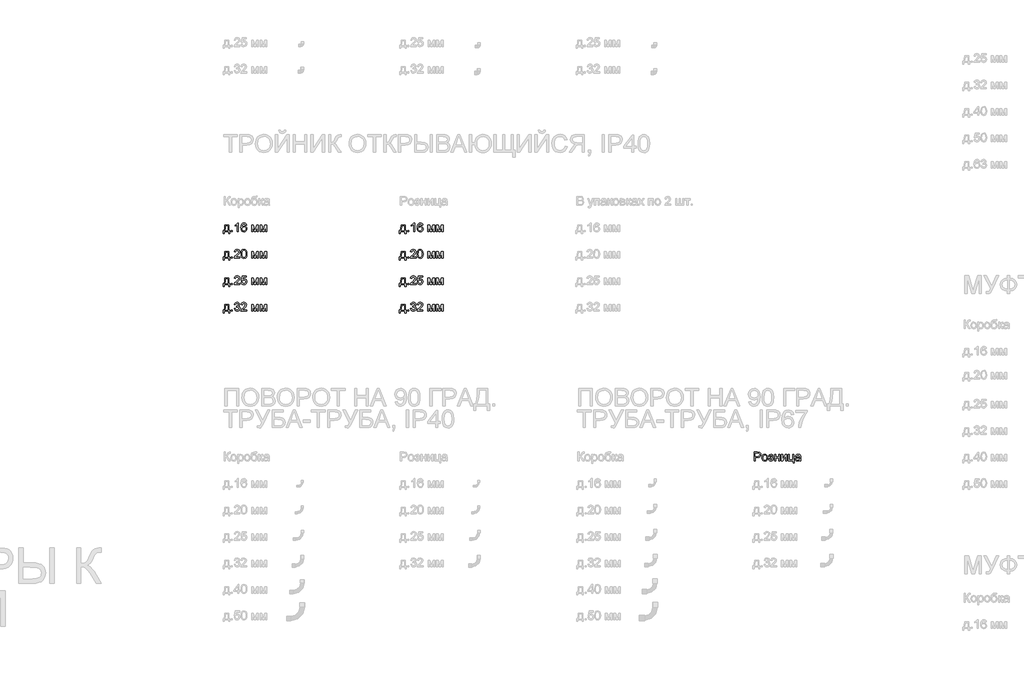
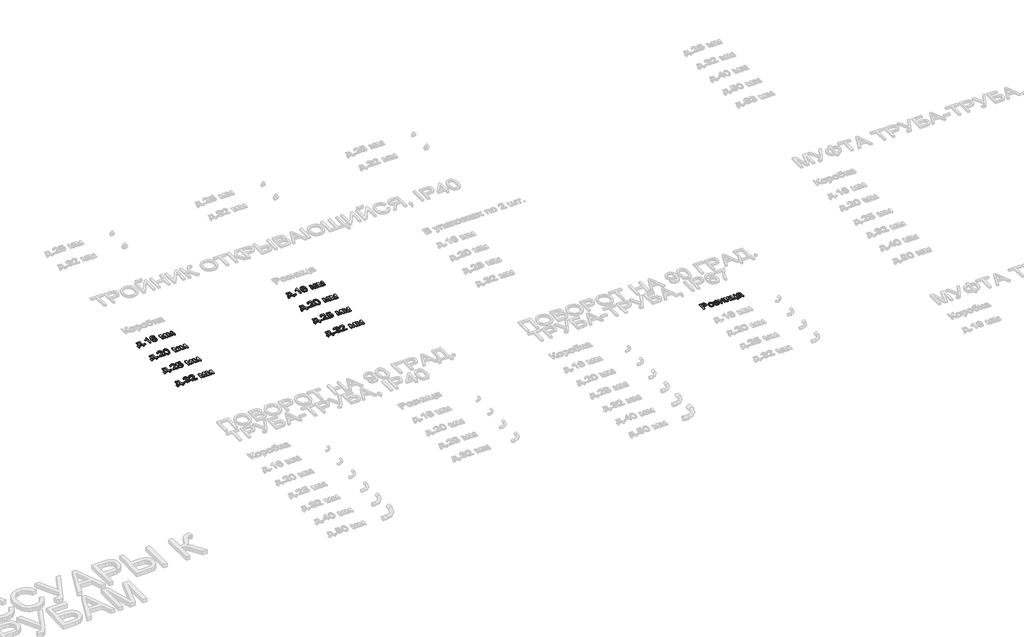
# One storey, part 67 of 98: 9 proxies.
"""IFC4 building model written with IfcOpenShell, lengths in millimetres."""

from ifc_helpers import new_model, si_unit, origin, origin_with_axes, place, context, project, spatial, polyline, outline, extrude, element, save

model = new_model("IFC4")

# Units and contexts
model_context = context("Model", 3, world=origin())
ifc_project = project(units=[si_unit("LENGTHUNIT", "METRE", prefix="MILLI")], contexts=[model_context])

# Site, building, storey
site = spatial("IfcSite", under=ifc_project)
building = spatial("IfcBuilding", under=site)
storey = spatial("IfcBuildingStorey", under=building, Name="Этаж 01", Elevation=0.0)

# Proxies
placement = place(None, origin())
element("IfcBuildingElementProxy", 1, Name="100", ObjectType="100", at=placement, inside=storey, context=model_context, shape_type="SweptSolid", body=[
    extrude(outline(polyline([(5971.4635027, -20759.5121665), (5971.4635027, -20659.0558563), (6008.6931606, -20659.0558563), (6023.702746, -20660.0123495), (6035.9041655, -20664.7089763), (6043.8136284, -20674.421061), (6046.8057353, -20688.1185339), (6044.78545, -20699.9582028), (6038.7245942, -20709.8235716), (6027.390763, -20716.4822358), (6009.5515519, -20718.7017905), (5984.0205415, -20718.7017905), (5984.0205415, -20759.5121665), (5971.4635027, -20759.5121665)]), holes=[polyline([(5984.0205415, -20706.1447517), (6010.2873159, -20706.1447517), (6028.7795176, -20701.533964), (6032.8814018, -20695.9850773), (6034.2486966, -20688.5599923), (6031.0235977, -20678.1611946), (6022.5500491, -20672.4712864), (6009.9930103, -20671.6128951), (5984.0205415, -20671.6128951), (5984.0205415, -20706.1447517)])]), origin_with_axes(), (0.0, 0.0, 1.0), 10.0),
    extrude(outline(polyline([(6059.3627741, -20722.6258651), (6062.0789695, -20704.8387706), (6070.2275557, -20692.3369141), (6080.2952596, -20686.2116789), (6092.3495263, -20684.1699338), (6105.5411615, -20686.656203), (6116.077915, -20694.1150104), (6122.9848995, -20705.957745), (6125.2872276, -20721.5957955), (6121.2160002, -20743.9384953), (6109.3579372, -20756.5813732), (6092.3495263, -20761.0817963), (6078.9984756, -20758.6047242), (6068.4739848, -20751.1735079), (6061.6405768, -20739.082453), (6059.3627741, -20722.6258651)]), holes=[polyline([(6071.9198129, -20722.6013396), (6073.3729467, -20733.9658276), (6077.7323484, -20742.0622972), (6084.2929106, -20746.9091424), (6092.3495263, -20748.5247575), (6100.3693538, -20746.8999454), (6106.9176533, -20742.025509), (6111.277055, -20733.8217405), (6112.7301889, -20722.2089321), (6111.2678579, -20711.175538), (6106.8808651, -20703.189433), (6100.3233686, -20698.3425877), (6092.3495263, -20696.7269726), (6084.2929106, -20698.3364563), (6077.7323484, -20703.1649075), (6073.3729467, -20711.242983), (6071.9198129, -20722.6013396)])]), origin_with_axes(), (0.0, 0.0, 1.0), 10.0),
    extrude(outline(polyline([(6156.6798245, -20726.5499397), (6156.6798245, -20713.9929009), (6166.5881129, -20713.5023916), (6171.5913081, -20710.8904294), (6173.9457529, -20705.4335132), (6170.7942304, -20699.0936801), (6162.6640383, -20696.7269726), (6154.2640661, -20699.0814174), (6148.8316753, -20706.1447517), (6134.7050067, -20704.5751218), (6144.1473112, -20689.2712308), (6161.3887141, -20684.1699338), (6171.8856137, -20685.7242353), (6179.8318648, -20690.3871396), (6184.8350599, -20697.2082849), (6186.5027916, -20705.2373094), (6184.1299528, -20713.0364077), (6177.0114361, -20719.0696725), (6185.3133065, -20726.8932962), (6188.0724215, -20738.1504853), (6186.3219163, -20747.3935204), (6181.0704008, -20754.7174378), (6172.6734943, -20759.4907067), (6161.4868159, -20761.0817963), (6150.5453923, -20759.6102683), (6142.1730112, -20755.1956844), (6136.3696727, -20747.8380445), (6133.1353769, -20737.5373486), (6147.2620455, -20735.9677188), (6152.9274282, -20745.238345), (6162.6885638, -20748.5247575), (6171.8610882, -20745.3732351), (6175.5153827, -20737.3166194), (6173.2467771, -20730.719269), (6168.4152602, -20727.1876018), (6159.1323712, -20726.4763633), (6156.6798245, -20726.5499397)])), origin_with_axes(), (0.0, 0.0, 1.0), 10.0),
    extrude(outline(polyline([(6203.7687199, -20685.7395637), (6216.3257587, -20685.7395637), (6216.3257587, -20713.9929009), (6249.2879855, -20713.9929009), (6249.2879855, -20685.7395637), (6261.8450242, -20685.7395637), (6261.8450242, -20759.5121665), (6249.2879855, -20759.5121665), (6249.2879855, -20726.5499397), (6216.3257587, -20726.5499397), (6216.3257587, -20759.5121665), (6203.7687199, -20759.5121665), (6203.7687199, -20685.7395637)])), origin_with_axes(), (0.0, 0.0, 1.0), 10.0),
    extrude(outline(polyline([(6280.6805824, -20685.7395637), (6293.2376212, -20685.7395637), (6293.2376212, -20742.0009835), (6324.0906578, -20685.7395637), (6340.3265165, -20685.7395637), (6340.3265165, -20759.5121665), (6327.7694778, -20759.5121665), (6327.7694778, -20703.5941032), (6297.1126448, -20759.5121665), (6280.6805824, -20759.5121665), (6280.6805824, -20685.7395637)])), origin_with_axes(), (0.0, 0.0, 1.0), 10.0),
    extrude(outline(polyline([(6359.1620747, -20685.7395637), (6371.7191135, -20685.7395637), (6371.7191135, -20746.9551277), (6407.8205999, -20746.9551277), (6407.8205999, -20685.7395637), (6420.3776387, -20685.7395637), (6420.3776387, -20746.9551277), (6428.2257879, -20746.9551277), (6428.2257879, -20779.9173545), (6415.6687491, -20779.9173545), (6415.6687491, -20759.5121665), (6359.1620747, -20759.5121665), (6359.1620747, -20685.7395637)])), origin_with_axes(), (0.0, 0.0, 1.0), 10.0),
    extrude(outline(polyline([(6486.3020922, -20750.0943874), (6474.1251982, -20758.6047242), (6460.6729799, -20761.0817963), (6450.179146, -20759.5918742), (6442.4382957, -20755.122108), (6437.6650268, -20748.3346852), (6436.0739371, -20739.8917934), (6438.4774329, -20729.9589795), (6444.7927404, -20722.7484924), (6453.5851201, -20718.6282141), (6464.4499017, -20716.7397532), (6486.2285158, -20712.4232711), (6486.3020922, -20709.6273679), (6482.8440015, -20700.3567416), (6468.9625875, -20696.7269726), (6456.258396, -20699.1427311), (6450.2006058, -20707.7143815), (6437.643567, -20706.1447517), (6443.0759578, -20693.8820185), (6454.0143158, -20686.6960569), (6470.5812683, -20684.1699338), (6485.7993202, -20686.4017513), (6494.3954961, -20692.0058203), (6498.2459943, -20700.5284199), (6498.859131, -20711.5158288), (6498.859131, -20727.1385509), (6499.4967931, -20748.9539532), (6501.9983907, -20759.5121665), (6489.4413519, -20759.5121665), (6486.3020922, -20750.0943874)]), holes=[polyline([(6486.3020922, -20724.9803098), (6466.044057, -20728.8308081), (6455.2405891, -20730.8664218), (6450.3477586, -20734.1773597), (6448.6309759, -20739.0088766), (6452.3711095, -20745.8024308), (6463.3462557, -20748.5247575), (6476.0504473, -20745.5203879), (6484.2419531, -20738.2485871), (6486.2285158, -20728.5365025), (6486.3020922, -20724.9803098)])]), origin_with_axes(), (0.0, 0.0, 1.0), 10.0),
])
element("IfcBuildingElementProxy", 2, Name="100", ObjectType="100", at=placement, inside=storey, context=model_context, shape_type="SweptSolid", body=[
    extrude(outline(polyline([(-26.9858135, -18085.7395637), (20.1030819, -18085.7395637), (20.1030819, -18146.9551277), (29.520861, -18146.9551277), (29.520861, -18179.9173545), (16.9638222, -18179.9173545), (16.9638222, -18159.5121665), (-34.8339627, -18159.5121665), (-34.8339627, -18179.9173545), (-47.3910015, -18179.9173545), (-47.3910015, -18146.9551277), (-39.5428522, -18146.9551277), (-29.8430303, -18123.0060098), (-26.9858135, -18085.7395637)]), holes=[polyline([(-15.9984045, -18098.2966025), (-18.9414605, -18126.905559), (-25.4161836, -18146.9551277), (7.5460431, -18146.9551277), (7.5460431, -18098.2966025), (-15.9984045, -18098.2966025)])]), origin_with_axes(), (0.0, 0.0, 1.0), 10.0),
    extrude(outline(polyline([(46.7867893, -18159.5121665), (46.7867893, -18146.9551277), (59.3438281, -18146.9551277), (59.3438281, -18159.5121665), (46.7867893, -18159.5121665)])), origin_with_axes(), (0.0, 0.0, 1.0), 10.0),
    extrude(outline(polyline([(126.8379114, -18159.5121665), (114.2808727, -18159.5121665), (114.2808727, -18081.2268779), (102.3860215, -18089.7004265), (89.1667951, -18096.0402596), (89.1667951, -18084.1699338), (107.5731576, -18072.4222355), (118.7445076, -18059.0558563), (126.8379114, -18059.0558563), (126.8379114, -18159.5121665)])), origin_with_axes(), (0.0, 0.0, 1.0), 10.0),
    extrude(outline(polyline([(221.0157022, -18085.7395637), (208.4586634, -18087.3091935), (203.700723, -18076.8368194), (191.1191587, -18071.6128951), (179.7883933, -18074.6540529), (171.2167428, -18086.0706575), (167.6482874, -18108.4501455), (178.7215355, -18098.4314925), (192.4435339, -18095.1573428), (204.0440795, -18097.3952916), (213.7806896, -18104.109138), (220.3841715, -18114.3669143), (222.5853321, -18127.2366527), (218.4405282, -18144.5638947), (207.0361864, -18156.8266279), (190.5795985, -18161.0817963), (176.3333682, -18158.2613677), (164.9872743, -18149.8000818), (157.5652551, -18134.8640728), (155.0912487, -18112.6194748), (157.8381009, -18087.6096305), (166.0786576, -18070.5092491), (177.3297153, -18061.9192045), (191.9039737, -18059.0558563), (202.9220394, -18060.8278213), (211.7450759, -18066.1437161), (217.9254935, -18074.5866079), (221.0157022, -18085.7395637)]), holes=[polyline([(167.6482874, -18127.040449), (170.5545552, -18137.9174933), (178.2800771, -18145.8146935), (189.5985798, -18148.5247575), (197.8851218, -18147.1206746), (204.3996988, -18142.9084257), (208.6211447, -18136.2865498), (210.0282933, -18127.6535857), (208.6395388, -18119.3670437), (204.4732752, -18113.0486705), (197.8483336, -18109.0479538), (189.083545, -18107.7143815), (173.8900186, -18113.0486705), (169.2087202, -18119.2137596), (167.6482874, -18127.040449)])]), origin_with_axes(), (0.0, 0.0, 1.0), 10.0),
    extrude(outline(polyline([(275.9527468, -18085.7395637), (297.5596827, -18085.7395637), (314.2124743, -18144.7968867), (332.1651157, -18085.7395637), (352.8646093, -18085.7395637), (352.8646093, -18159.5121665), (340.3075705, -18159.5121665), (340.3075705, -18100.111487), (322.2568273, -18159.5121665), (305.7757139, -18159.5121665), (288.5097856, -18097.2665329), (288.5097856, -18159.5121665), (275.9527468, -18159.5121665), (275.9527468, -18085.7395637)])), origin_with_axes(), (0.0, 0.0, 1.0), 10.0),
    extrude(outline(polyline([(371.7001674, -18085.7395637), (393.3071033, -18085.7395637), (409.9598949, -18144.7968867), (427.9125363, -18085.7395637), (448.6120299, -18085.7395637), (448.6120299, -18159.5121665), (436.0549911, -18159.5121665), (436.0549911, -18100.111487), (418.0042479, -18159.5121665), (401.5231345, -18159.5121665), (384.2572062, -18097.2665329), (384.2572062, -18159.5121665), (371.7001674, -18159.5121665), (371.7001674, -18085.7395637)])), origin_with_axes(), (0.0, 0.0, 1.0), 10.0),
])
element("IfcBuildingElementProxy", 3, Name="100", ObjectType="100", at=placement, inside=storey, context=model_context, shape_type="SweptSolid", body=[
    extrude(outline(polyline([(-26.9858135, -18385.7395637), (20.1030819, -18385.7395637), (20.1030819, -18446.9551277), (29.520861, -18446.9551277), (29.520861, -18479.9173545), (16.9638222, -18479.9173545), (16.9638222, -18459.5121665), (-34.8339627, -18459.5121665), (-34.8339627, -18479.9173545), (-47.3910015, -18479.9173545), (-47.3910015, -18446.9551277), (-39.5428522, -18446.9551277), (-29.8430303, -18423.0060098), (-26.9858135, -18385.7395637)]), holes=[polyline([(-15.9984045, -18398.2966025), (-18.9414605, -18426.905559), (-25.4161836, -18446.9551277), (7.5460431, -18446.9551277), (7.5460431, -18398.2966025), (-15.9984045, -18398.2966025)])]), origin_with_axes(), (0.0, 0.0, 1.0), 10.0),
    extrude(outline(polyline([(46.7867893, -18459.5121665), (46.7867893, -18446.9551277), (59.3438281, -18446.9551277), (59.3438281, -18459.5121665), (46.7867893, -18459.5121665)])), origin_with_axes(), (0.0, 0.0, 1.0), 10.0),
    extrude(outline(polyline([(144.1038398, -18446.9551277), (144.1038398, -18459.5121665), (78.1793862, -18459.5121665), (79.5282869, -18450.8546768), (87.1557069, -18437.5250859), (102.8765308, -18422.9692216), (124.5570431, -18402.0489988), (129.9771711, -18387.8242283), (124.8636114, -18376.3095219), (111.509495, -18371.6128951), (97.5912928, -18376.1991573), (92.3060548, -18388.8788234), (79.7490161, -18387.3091935), (82.7932396, -18375.1629563), (89.3752616, -18366.2908689), (99.1517256, -18360.8646095), (111.7792751, -18359.0558563), (124.4987951, -18361.0669445), (134.256865, -18367.1002093), (140.4648737, -18376.1133182), (142.5342099, -18387.0639389), (140.3023925, -18398.9710528), (132.8834389, -18411.2828369), (114.8940093, -18428.4874515), (100.4485097, -18440.5662437), (94.7831269, -18446.9551277), (144.1038398, -18446.9551277)])), origin_with_axes(), (0.0, 0.0, 1.0), 10.0),
    extrude(outline(polyline([(156.6608785, -18410.0933518), (160.3519612, -18381.1900897), (171.3148447, -18364.5250353), (189.6231053, -18359.0558563), (204.2893342, -18362.2932179), (214.4183518, -18371.6251578), (220.3044637, -18386.4875904), (222.5853321, -18410.0933518), (218.9310376, -18438.8739865), (208.0049423, -18455.5758291), (199.7735827, -18459.7053045), (189.6231053, -18461.0817963), (176.5755572, -18458.6905633), (166.6672688, -18451.5168644), (159.1624761, -18434.5268476), (156.6608785, -18410.0933518)]), holes=[polyline([(169.2179173, -18410.0688263), (170.6894453, -18429.8210238), (175.1040292, -18441.2529568), (181.6768542, -18446.7068073), (189.6231053, -18448.5247575), (197.5693564, -18446.700676), (204.1421814, -18441.2284313), (208.5567653, -18429.7903669), (210.0282933, -18410.0688263), (208.6058162, -18390.7611529), (204.3383851, -18379.2403151), (197.7778228, -18373.5197501), (189.4759525, -18371.6128951), (181.6155405, -18373.2928895), (175.3002329, -18378.3328729), (170.7384962, -18390.5710806), (169.2179173, -18410.0688263)])]), origin_with_axes(), (0.0, 0.0, 1.0), 10.0),
    extrude(outline(polyline([(275.9527468, -18385.7395637), (297.5596827, -18385.7395637), (314.2124743, -18444.7968867), (332.1651157, -18385.7395637), (352.8646093, -18385.7395637), (352.8646093, -18459.5121665), (340.3075705, -18459.5121665), (340.3075705, -18400.111487), (322.2568273, -18459.5121665), (305.7757139, -18459.5121665), (288.5097856, -18397.2665329), (288.5097856, -18459.5121665), (275.9527468, -18459.5121665), (275.9527468, -18385.7395637)])), origin_with_axes(), (0.0, 0.0, 1.0), 10.0),
    extrude(outline(polyline([(371.7001674, -18385.7395637), (393.3071033, -18385.7395637), (409.9598949, -18444.7968867), (427.9125363, -18385.7395637), (448.6120299, -18385.7395637), (448.6120299, -18459.5121665), (436.0549911, -18459.5121665), (436.0549911, -18400.111487), (418.0042479, -18459.5121665), (401.5231345, -18459.5121665), (384.2572062, -18397.2665329), (384.2572062, -18459.5121665), (371.7001674, -18459.5121665), (371.7001674, -18385.7395637)])), origin_with_axes(), (0.0, 0.0, 1.0), 10.0),
])
element("IfcBuildingElementProxy", 4, Name="100", ObjectType="100", at=placement, inside=storey, context=model_context, shape_type="SweptSolid", body=[
    extrude(outline(polyline([(-26.9858135, -18685.7395637), (20.1030819, -18685.7395637), (20.1030819, -18746.9551277), (29.520861, -18746.9551277), (29.520861, -18779.9173545), (16.9638222, -18779.9173545), (16.9638222, -18759.5121665), (-34.8339627, -18759.5121665), (-34.8339627, -18779.9173545), (-47.3910015, -18779.9173545), (-47.3910015, -18746.9551277), (-39.5428522, -18746.9551277), (-29.8430303, -18723.0060098), (-26.9858135, -18685.7395637)]), holes=[polyline([(-15.9984045, -18698.2966025), (-18.9414605, -18726.905559), (-25.4161836, -18746.9551277), (7.5460431, -18746.9551277), (7.5460431, -18698.2966025), (-15.9984045, -18698.2966025)])]), origin_with_axes(), (0.0, 0.0, 1.0), 10.0),
    extrude(outline(polyline([(46.7867893, -18759.5121665), (46.7867893, -18746.9551277), (59.3438281, -18746.9551277), (59.3438281, -18759.5121665), (46.7867893, -18759.5121665)])), origin_with_axes(), (0.0, 0.0, 1.0), 10.0),
    extrude(outline(polyline([(144.1038398, -18746.9551277), (144.1038398, -18759.5121665), (78.1793862, -18759.5121665), (79.5282869, -18750.8546768), (87.1557069, -18737.5250859), (102.8765308, -18722.9692216), (124.5570431, -18702.0489988), (129.9771711, -18687.8242283), (124.8636114, -18676.3095219), (111.509495, -18671.6128951), (97.5912928, -18676.1991573), (92.3060548, -18688.8788234), (79.7490161, -18687.3091935), (82.7932396, -18675.1629563), (89.3752616, -18666.2908689), (99.1517256, -18660.8646095), (111.7792751, -18659.0558563), (124.4987951, -18661.0669445), (134.256865, -18667.1002093), (140.4648737, -18676.1133182), (142.5342099, -18687.0639389), (140.3023925, -18698.9710528), (132.8834389, -18711.2828369), (114.8940093, -18728.4874515), (100.4485097, -18740.5662437), (94.7831269, -18746.9551277), (144.1038398, -18746.9551277)])), origin_with_axes(), (0.0, 0.0, 1.0), 10.0),
    extrude(outline(polyline([(156.6608785, -18732.8284591), (169.2179173, -18731.2588292), (175.5454876, -18744.1960127), (188.6666121, -18748.5247575), (197.6674583, -18747.019507), (204.4119615, -18742.5037555), (208.6242103, -18735.4986692), (210.0282933, -18726.5254142), (204.7675808, -18711.6139307), (198.1610333, -18707.5120464), (188.8628158, -18706.1447517), (177.8386187, -18708.3275182), (170.7875471, -18713.9929009), (158.2305084, -18712.4232711), (169.2179173, -18660.6254862), (217.8764425, -18660.6254862), (217.8764425, -18673.1825249), (179.3714604, -18673.1825249), (174.0003832, -18700.847251), (182.9705725, -18695.4025974), (192.3699575, -18693.5877129), (204.1023275, -18695.8379245), (213.8420033, -18702.5885591), (220.3994999, -18712.8769922), (222.5853321, -18725.7405993), (220.6171634, -18738.2976381), (214.7126574, -18749.0397923), (203.4064174, -18758.0712953), (188.6175612, -18761.0817963), (176.2843173, -18759.1473501), (166.4588023, -18753.3440117), (159.7234961, -18744.3462312), (156.6608785, -18732.8284591)])), origin_with_axes(), (0.0, 0.0, 1.0), 10.0),
    extrude(outline(polyline([(275.9527468, -18685.7395637), (297.5596827, -18685.7395637), (314.2124743, -18744.7968867), (332.1651157, -18685.7395637), (352.8646093, -18685.7395637), (352.8646093, -18759.5121665), (340.3075705, -18759.5121665), (340.3075705, -18700.111487), (322.2568273, -18759.5121665), (305.7757139, -18759.5121665), (288.5097856, -18697.2665329), (288.5097856, -18759.5121665), (275.9527468, -18759.5121665), (275.9527468, -18685.7395637)])), origin_with_axes(), (0.0, 0.0, 1.0), 10.0),
    extrude(outline(polyline([(371.7001674, -18685.7395637), (393.3071033, -18685.7395637), (409.9598949, -18744.7968867), (427.9125363, -18685.7395637), (448.6120299, -18685.7395637), (448.6120299, -18759.5121665), (436.0549911, -18759.5121665), (436.0549911, -18700.111487), (418.0042479, -18759.5121665), (401.5231345, -18759.5121665), (384.2572062, -18697.2665329), (384.2572062, -18759.5121665), (371.7001674, -18759.5121665), (371.7001674, -18685.7395637)])), origin_with_axes(), (0.0, 0.0, 1.0), 10.0),
])
element("IfcBuildingElementProxy", 5, Name="100", ObjectType="100", at=placement, inside=storey, context=model_context, shape_type="SweptSolid", body=[
    extrude(outline(polyline([(-26.9858135, -18985.7395637), (20.1030819, -18985.7395637), (20.1030819, -19046.9551277), (29.520861, -19046.9551277), (29.520861, -19079.9173545), (16.9638222, -19079.9173545), (16.9638222, -19059.5121665), (-34.8339627, -19059.5121665), (-34.8339627, -19079.9173545), (-47.3910015, -19079.9173545), (-47.3910015, -19046.9551277), (-39.5428522, -19046.9551277), (-29.8430303, -19023.0060098), (-26.9858135, -18985.7395637)]), holes=[polyline([(-15.9984045, -18998.2966025), (-18.9414605, -19026.905559), (-25.4161836, -19046.9551277), (7.5460431, -19046.9551277), (7.5460431, -18998.2966025), (-15.9984045, -18998.2966025)])]), origin_with_axes(), (0.0, 0.0, 1.0), 10.0),
    extrude(outline(polyline([(46.7867893, -19059.5121665), (46.7867893, -19046.9551277), (59.3438281, -19046.9551277), (59.3438281, -19059.5121665), (46.7867893, -19059.5121665)])), origin_with_axes(), (0.0, 0.0, 1.0), 10.0),
    extrude(outline(polyline([(79.7490161, -19032.8284591), (92.3060548, -19031.2588292), (99.2344991, -19044.4780556), (112.196208, -19048.5247575), (120.8046467, -19047.1329373), (127.4510481, -19042.9574767), (133.1164308, -19029.1741646), (127.500099, -19016.1879302), (113.2262776, -19011.049845), (104.4216352, -19012.4232711), (105.8195868, -18999.8662323), (107.830675, -19000.0133851), (122.079971, -18996.4081416), (126.8256487, -18991.8341421), (128.4075413, -18985.3226308), (123.8212791, -18975.5001815), (112.0000043, -18971.6128951), (100.0315767, -18975.5369697), (93.8756847, -18987.3091935), (81.3186459, -18985.7395637), (85.01586, -18974.4639805), (91.5948163, -18966.0456142), (100.5956625, -18960.8032958), (111.5585459, -18959.0558563), (126.7030214, -18962.5016843), (137.2980228, -18971.9194634), (140.9645801, -18984.5868668), (137.4819638, -18996.1628869), (127.181268, -19004.47702), (140.8664782, -19013.0609332), (145.6734696, -19029.3948938), (143.2699739, -19041.6331015), (136.0594868, -19051.860221), (125.1763111, -19058.7764025), (111.7547496, -19061.0817963), (99.6146438, -19059.1136276), (89.7308809, -19053.2091216), (82.8576189, -19044.1776186), (79.7490161, -19032.8284591)])), origin_with_axes(), (0.0, 0.0, 1.0), 10.0),
    extrude(outline(polyline([(221.0157022, -19046.9551277), (221.0157022, -19059.5121665), (155.0912487, -19059.5121665), (156.4401493, -19050.8546768), (164.0675694, -19037.5250859), (179.7883933, -19022.9692216), (201.4689055, -19002.0489988), (206.8890336, -18987.8242283), (201.7754739, -18976.3095219), (188.4213574, -18971.6128951), (174.5031553, -18976.1991573), (169.2179173, -18988.8788234), (156.6608785, -18987.3091935), (159.705102, -18975.1629563), (166.2871241, -18966.2908689), (176.0635881, -18960.8646095), (188.6911376, -18959.0558563), (201.4106576, -18961.0669445), (211.1687275, -18967.1002093), (217.3767361, -18976.1133182), (219.4460724, -18987.0639389), (217.2142549, -18998.9710528), (209.7953014, -19011.2828369), (191.8058718, -19028.4874515), (177.3603721, -19040.5662437), (171.6949894, -19046.9551277), (221.0157022, -19046.9551277)])), origin_with_axes(), (0.0, 0.0, 1.0), 10.0),
    extrude(outline(polyline([(275.9527468, -18985.7395637), (297.5596827, -18985.7395637), (314.2124743, -19044.7968867), (332.1651157, -18985.7395637), (352.8646093, -18985.7395637), (352.8646093, -19059.5121665), (340.3075705, -19059.5121665), (340.3075705, -19000.111487), (322.2568273, -19059.5121665), (305.7757139, -19059.5121665), (288.5097856, -18997.2665329), (288.5097856, -19059.5121665), (275.9527468, -19059.5121665), (275.9527468, -18985.7395637)])), origin_with_axes(), (0.0, 0.0, 1.0), 10.0),
    extrude(outline(polyline([(371.7001674, -18985.7395637), (393.3071033, -18985.7395637), (409.9598949, -19044.7968867), (427.9125363, -18985.7395637), (448.6120299, -18985.7395637), (448.6120299, -19059.5121665), (436.0549911, -19059.5121665), (436.0549911, -19000.111487), (418.0042479, -19059.5121665), (401.5231345, -19059.5121665), (384.2572062, -18997.2665329), (384.2572062, -19059.5121665), (371.7001674, -19059.5121665), (371.7001674, -18985.7395637)])), origin_with_axes(), (0.0, 0.0, 1.0), 10.0),
])
element("IfcBuildingElementProxy", 6, Name="100", ObjectType="100", at=placement, inside=storey, context=model_context, shape_type="SweptSolid", body=[
    extrude(outline(polyline([(1970.1856084, -18085.7395637), (2017.2745038, -18085.7395637), (2017.2745038, -18146.9551277), (2026.6922829, -18146.9551277), (2026.6922829, -18179.9173545), (2014.1352441, -18179.9173545), (2014.1352441, -18159.5121665), (1962.3374592, -18159.5121665), (1962.3374592, -18179.9173545), (1949.7804204, -18179.9173545), (1949.7804204, -18146.9551277), (1957.6285697, -18146.9551277), (1967.3283916, -18123.0060098), (1970.1856084, -18085.7395637)]), holes=[polyline([(1981.1730173, -18098.2966025), (1978.2299614, -18126.905559), (1971.7552383, -18146.9551277), (2004.717465, -18146.9551277), (2004.717465, -18098.2966025), (1981.1730173, -18098.2966025)])]), origin_with_axes(), (0.0, 0.0, 1.0), 10.0),
    extrude(outline(polyline([(2043.9582112, -18159.5121665), (2043.9582112, -18146.9551277), (2056.51525, -18146.9551277), (2056.51525, -18159.5121665), (2043.9582112, -18159.5121665)])), origin_with_axes(), (0.0, 0.0, 1.0), 10.0),
    extrude(outline(polyline([(2124.0093333, -18159.5121665), (2111.4522946, -18159.5121665), (2111.4522946, -18081.2268779), (2099.5574434, -18089.7004265), (2086.338217, -18096.0402596), (2086.338217, -18084.1699338), (2104.7445795, -18072.4222355), (2115.9159294, -18059.0558563), (2124.0093333, -18059.0558563), (2124.0093333, -18159.5121665)])), origin_with_axes(), (0.0, 0.0, 1.0), 10.0),
    extrude(outline(polyline([(2218.1871241, -18085.7395637), (2205.6300853, -18087.3091935), (2200.8721449, -18076.8368194), (2188.2905806, -18071.6128951), (2176.9598152, -18074.6540529), (2168.3881647, -18086.0706575), (2164.8197093, -18108.4501455), (2175.8929574, -18098.4314925), (2189.6149558, -18095.1573428), (2201.2155014, -18097.3952916), (2210.9521115, -18104.109138), (2217.5555933, -18114.3669143), (2219.7567539, -18127.2366527), (2215.6119501, -18144.5638947), (2204.2076083, -18156.8266279), (2187.7510204, -18161.0817963), (2173.5047901, -18158.2613677), (2162.1586962, -18149.8000818), (2154.736677, -18134.8640728), (2152.2626706, -18112.6194748), (2155.0095228, -18087.6096305), (2163.2500795, -18070.5092491), (2174.5011372, -18061.9192045), (2189.0753956, -18059.0558563), (2200.0934613, -18060.8278213), (2208.9164978, -18066.1437161), (2215.0969153, -18074.5866079), (2218.1871241, -18085.7395637)]), holes=[polyline([(2164.8197093, -18127.040449), (2167.7259771, -18137.9174933), (2175.451499, -18145.8146935), (2186.7700017, -18148.5247575), (2195.0565437, -18147.1206746), (2201.5711207, -18142.9084257), (2205.7925665, -18136.2865498), (2207.1997152, -18127.6535857), (2205.8109606, -18119.3670437), (2201.6446971, -18113.0486705), (2195.0197555, -18109.0479538), (2186.2549669, -18107.7143815), (2171.0614405, -18113.0486705), (2166.3801421, -18119.2137596), (2164.8197093, -18127.040449)])]), origin_with_axes(), (0.0, 0.0, 1.0), 10.0),
    extrude(outline(polyline([(2273.1241687, -18085.7395637), (2294.7311046, -18085.7395637), (2311.3838962, -18144.7968867), (2329.3365376, -18085.7395637), (2350.0360312, -18085.7395637), (2350.0360312, -18159.5121665), (2337.4789924, -18159.5121665), (2337.4789924, -18100.111487), (2319.4282492, -18159.5121665), (2302.9471358, -18159.5121665), (2285.6812075, -18097.2665329), (2285.6812075, -18159.5121665), (2273.1241687, -18159.5121665), (2273.1241687, -18085.7395637)])), origin_with_axes(), (0.0, 0.0, 1.0), 10.0),
    extrude(outline(polyline([(2368.8715893, -18085.7395637), (2390.4785252, -18085.7395637), (2407.1313168, -18144.7968867), (2425.0839582, -18085.7395637), (2445.7834518, -18085.7395637), (2445.7834518, -18159.5121665), (2433.226413, -18159.5121665), (2433.226413, -18100.111487), (2415.1756698, -18159.5121665), (2398.6945564, -18159.5121665), (2381.4286281, -18097.2665329), (2381.4286281, -18159.5121665), (2368.8715893, -18159.5121665), (2368.8715893, -18085.7395637)])), origin_with_axes(), (0.0, 0.0, 1.0), 10.0),
])
element("IfcBuildingElementProxy", 7, Name="100", ObjectType="100", at=placement, inside=storey, context=model_context, shape_type="SweptSolid", body=[
    extrude(outline(polyline([(1970.1856084, -18385.7395637), (2017.2745038, -18385.7395637), (2017.2745038, -18446.9551277), (2026.6922829, -18446.9551277), (2026.6922829, -18479.9173545), (2014.1352441, -18479.9173545), (2014.1352441, -18459.5121665), (1962.3374592, -18459.5121665), (1962.3374592, -18479.9173545), (1949.7804204, -18479.9173545), (1949.7804204, -18446.9551277), (1957.6285697, -18446.9551277), (1967.3283916, -18423.0060098), (1970.1856084, -18385.7395637)]), holes=[polyline([(1981.1730173, -18398.2966025), (1978.2299614, -18426.905559), (1971.7552383, -18446.9551277), (2004.717465, -18446.9551277), (2004.717465, -18398.2966025), (1981.1730173, -18398.2966025)])]), origin_with_axes(), (0.0, 0.0, 1.0), 10.0),
    extrude(outline(polyline([(2043.9582112, -18459.5121665), (2043.9582112, -18446.9551277), (2056.51525, -18446.9551277), (2056.51525, -18459.5121665), (2043.9582112, -18459.5121665)])), origin_with_axes(), (0.0, 0.0, 1.0), 10.0),
    extrude(outline(polyline([(2141.2752616, -18446.9551277), (2141.2752616, -18459.5121665), (2075.3508081, -18459.5121665), (2076.6997088, -18450.8546768), (2084.3271288, -18437.5250859), (2100.0479527, -18422.9692216), (2121.728465, -18402.0489988), (2127.148593, -18387.8242283), (2122.0350333, -18376.3095219), (2108.6809169, -18371.6128951), (2094.7627147, -18376.1991573), (2089.4774767, -18388.8788234), (2076.920438, -18387.3091935), (2079.9646615, -18375.1629563), (2086.5466835, -18366.2908689), (2096.3231475, -18360.8646095), (2108.950697, -18359.0558563), (2121.670217, -18361.0669445), (2131.4282869, -18367.1002093), (2137.6362956, -18376.1133182), (2139.7056318, -18387.0639389), (2137.4738144, -18398.9710528), (2130.0548608, -18411.2828369), (2112.0654312, -18428.4874515), (2097.6199315, -18440.5662437), (2091.9545488, -18446.9551277), (2141.2752616, -18446.9551277)])), origin_with_axes(), (0.0, 0.0, 1.0), 10.0),
    extrude(outline(polyline([(2153.8323004, -18410.0933518), (2157.5233831, -18381.1900897), (2168.4862666, -18364.5250353), (2186.7945272, -18359.0558563), (2201.4607561, -18362.2932179), (2211.5897737, -18371.6251578), (2217.4758856, -18386.4875904), (2219.7567539, -18410.0933518), (2216.1024595, -18438.8739865), (2205.1763642, -18455.5758291), (2196.9450046, -18459.7053045), (2186.7945272, -18461.0817963), (2173.7469791, -18458.6905633), (2163.8386907, -18451.5168644), (2156.333898, -18434.5268476), (2153.8323004, -18410.0933518)]), holes=[polyline([(2166.3893392, -18410.0688263), (2167.8608672, -18429.8210238), (2172.2754511, -18441.2529568), (2178.8482761, -18446.7068073), (2186.7945272, -18448.5247575), (2194.7407783, -18446.700676), (2201.3136033, -18441.2284313), (2205.7281872, -18429.7903669), (2207.1997152, -18410.0688263), (2205.7772381, -18390.7611529), (2201.509807, -18379.2403151), (2194.9492447, -18373.5197501), (2186.6473744, -18371.6128951), (2178.7869624, -18373.2928895), (2172.4716548, -18378.3328729), (2167.9099181, -18390.5710806), (2166.3893392, -18410.0688263)])]), origin_with_axes(), (0.0, 0.0, 1.0), 10.0),
    extrude(outline(polyline([(2273.1241687, -18385.7395637), (2294.7311046, -18385.7395637), (2311.3838962, -18444.7968867), (2329.3365376, -18385.7395637), (2350.0360312, -18385.7395637), (2350.0360312, -18459.5121665), (2337.4789924, -18459.5121665), (2337.4789924, -18400.111487), (2319.4282492, -18459.5121665), (2302.9471358, -18459.5121665), (2285.6812075, -18397.2665329), (2285.6812075, -18459.5121665), (2273.1241687, -18459.5121665), (2273.1241687, -18385.7395637)])), origin_with_axes(), (0.0, 0.0, 1.0), 10.0),
    extrude(outline(polyline([(2368.8715893, -18385.7395637), (2390.4785252, -18385.7395637), (2407.1313168, -18444.7968867), (2425.0839582, -18385.7395637), (2445.7834518, -18385.7395637), (2445.7834518, -18459.5121665), (2433.226413, -18459.5121665), (2433.226413, -18400.111487), (2415.1756698, -18459.5121665), (2398.6945564, -18459.5121665), (2381.4286281, -18397.2665329), (2381.4286281, -18459.5121665), (2368.8715893, -18459.5121665), (2368.8715893, -18385.7395637)])), origin_with_axes(), (0.0, 0.0, 1.0), 10.0),
])
element("IfcBuildingElementProxy", 8, Name="100", ObjectType="100", at=placement, inside=storey, context=model_context, shape_type="SweptSolid", body=[
    extrude(outline(polyline([(1970.1856084, -18685.7395637), (2017.2745038, -18685.7395637), (2017.2745038, -18746.9551277), (2026.6922829, -18746.9551277), (2026.6922829, -18779.9173545), (2014.1352441, -18779.9173545), (2014.1352441, -18759.5121665), (1962.3374592, -18759.5121665), (1962.3374592, -18779.9173545), (1949.7804204, -18779.9173545), (1949.7804204, -18746.9551277), (1957.6285697, -18746.9551277), (1967.3283916, -18723.0060098), (1970.1856084, -18685.7395637)]), holes=[polyline([(1981.1730173, -18698.2966025), (1978.2299614, -18726.905559), (1971.7552383, -18746.9551277), (2004.717465, -18746.9551277), (2004.717465, -18698.2966025), (1981.1730173, -18698.2966025)])]), origin_with_axes(), (0.0, 0.0, 1.0), 10.0),
    extrude(outline(polyline([(2043.9582112, -18759.5121665), (2043.9582112, -18746.9551277), (2056.51525, -18746.9551277), (2056.51525, -18759.5121665), (2043.9582112, -18759.5121665)])), origin_with_axes(), (0.0, 0.0, 1.0), 10.0),
    extrude(outline(polyline([(2141.2752616, -18746.9551277), (2141.2752616, -18759.5121665), (2075.3508081, -18759.5121665), (2076.6997088, -18750.8546768), (2084.3271288, -18737.5250859), (2100.0479527, -18722.9692216), (2121.728465, -18702.0489988), (2127.148593, -18687.8242283), (2122.0350333, -18676.3095219), (2108.6809169, -18671.6128951), (2094.7627147, -18676.1991573), (2089.4774767, -18688.8788234), (2076.920438, -18687.3091935), (2079.9646615, -18675.1629563), (2086.5466835, -18666.2908689), (2096.3231475, -18660.8646095), (2108.950697, -18659.0558563), (2121.670217, -18661.0669445), (2131.4282869, -18667.1002093), (2137.6362956, -18676.1133182), (2139.7056318, -18687.0639389), (2137.4738144, -18698.9710528), (2130.0548608, -18711.2828369), (2112.0654312, -18728.4874515), (2097.6199315, -18740.5662437), (2091.9545488, -18746.9551277), (2141.2752616, -18746.9551277)])), origin_with_axes(), (0.0, 0.0, 1.0), 10.0),
    extrude(outline(polyline([(2153.8323004, -18732.8284591), (2166.3893392, -18731.2588292), (2172.7169095, -18744.1960127), (2185.838034, -18748.5247575), (2194.8388801, -18747.019507), (2201.5833834, -18742.5037555), (2205.7956322, -18735.4986692), (2207.1997152, -18726.5254142), (2201.9390026, -18711.6139307), (2195.3324552, -18707.5120464), (2186.0342377, -18706.1447517), (2175.0100406, -18708.3275182), (2167.958969, -18713.9929009), (2155.4019303, -18712.4232711), (2166.3893392, -18660.6254862), (2215.0478644, -18660.6254862), (2215.0478644, -18673.1825249), (2176.5428822, -18673.1825249), (2171.1718051, -18700.847251), (2180.1419944, -18695.4025974), (2189.5413794, -18693.5877129), (2201.2737494, -18695.8379245), (2211.0134252, -18702.5885591), (2217.5709218, -18712.8769922), (2219.7567539, -18725.7405993), (2217.7885853, -18738.2976381), (2211.8840793, -18749.0397923), (2200.5778393, -18758.0712953), (2185.7889831, -18761.0817963), (2173.4557392, -18759.1473501), (2163.6302242, -18753.3440117), (2156.894918, -18744.3462312), (2153.8323004, -18732.8284591)])), origin_with_axes(), (0.0, 0.0, 1.0), 10.0),
    extrude(outline(polyline([(2273.1241687, -18685.7395637), (2294.7311046, -18685.7395637), (2311.3838962, -18744.7968867), (2329.3365376, -18685.7395637), (2350.0360312, -18685.7395637), (2350.0360312, -18759.5121665), (2337.4789924, -18759.5121665), (2337.4789924, -18700.111487), (2319.4282492, -18759.5121665), (2302.9471358, -18759.5121665), (2285.6812075, -18697.2665329), (2285.6812075, -18759.5121665), (2273.1241687, -18759.5121665), (2273.1241687, -18685.7395637)])), origin_with_axes(), (0.0, 0.0, 1.0), 10.0),
    extrude(outline(polyline([(2368.8715893, -18685.7395637), (2390.4785252, -18685.7395637), (2407.1313168, -18744.7968867), (2425.0839582, -18685.7395637), (2445.7834518, -18685.7395637), (2445.7834518, -18759.5121665), (2433.226413, -18759.5121665), (2433.226413, -18700.111487), (2415.1756698, -18759.5121665), (2398.6945564, -18759.5121665), (2381.4286281, -18697.2665329), (2381.4286281, -18759.5121665), (2368.8715893, -18759.5121665), (2368.8715893, -18685.7395637)])), origin_with_axes(), (0.0, 0.0, 1.0), 10.0),
])
element("IfcBuildingElementProxy", 9, Name="100", ObjectType="100", at=placement, inside=storey, context=model_context, shape_type="SweptSolid", body=[
    extrude(outline(polyline([(1970.1856084, -18985.7395637), (2017.2745038, -18985.7395637), (2017.2745038, -19046.9551277), (2026.6922829, -19046.9551277), (2026.6922829, -19079.9173545), (2014.1352441, -19079.9173545), (2014.1352441, -19059.5121665), (1962.3374592, -19059.5121665), (1962.3374592, -19079.9173545), (1949.7804204, -19079.9173545), (1949.7804204, -19046.9551277), (1957.6285697, -19046.9551277), (1967.3283916, -19023.0060098), (1970.1856084, -18985.7395637)]), holes=[polyline([(1981.1730173, -18998.2966025), (1978.2299614, -19026.905559), (1971.7552383, -19046.9551277), (2004.717465, -19046.9551277), (2004.717465, -18998.2966025), (1981.1730173, -18998.2966025)])]), origin_with_axes(), (0.0, 0.0, 1.0), 10.0),
    extrude(outline(polyline([(2043.9582112, -19059.5121665), (2043.9582112, -19046.9551277), (2056.51525, -19046.9551277), (2056.51525, -19059.5121665), (2043.9582112, -19059.5121665)])), origin_with_axes(), (0.0, 0.0, 1.0), 10.0),
    extrude(outline(polyline([(2076.920438, -19032.8284591), (2089.4774767, -19031.2588292), (2096.405921, -19044.4780556), (2109.3676299, -19048.5247575), (2117.9760686, -19047.1329373), (2124.62247, -19042.9574767), (2130.2878527, -19029.1741646), (2124.6715209, -19016.1879302), (2110.3976995, -19011.049845), (2101.5930571, -19012.4232711), (2102.9910087, -18999.8662323), (2105.0020969, -19000.0133851), (2119.2513929, -18996.4081416), (2123.9970706, -18991.8341421), (2125.5789632, -18985.3226308), (2120.992701, -18975.5001815), (2109.1714262, -18971.6128951), (2097.2029986, -18975.5369697), (2091.0471066, -18987.3091935), (2078.4900678, -18985.7395637), (2082.1872819, -18974.4639805), (2088.7662382, -18966.0456142), (2097.7670843, -18960.8032958), (2108.7299678, -18959.0558563), (2123.8744433, -18962.5016843), (2134.4694447, -18971.9194634), (2138.136002, -18984.5868668), (2134.6533857, -18996.1628869), (2124.3526899, -19004.47702), (2138.0379001, -19013.0609332), (2142.8448915, -19029.3948938), (2140.4413958, -19041.6331015), (2133.2309087, -19051.860221), (2122.347733, -19058.7764025), (2108.9261715, -19061.0817963), (2096.7860657, -19059.1136276), (2086.9023028, -19053.2091216), (2080.0290408, -19044.1776186), (2076.920438, -19032.8284591)])), origin_with_axes(), (0.0, 0.0, 1.0), 10.0),
    extrude(outline(polyline([(2218.1871241, -19046.9551277), (2218.1871241, -19059.5121665), (2152.2626706, -19059.5121665), (2153.6115712, -19050.8546768), (2161.2389912, -19037.5250859), (2176.9598152, -19022.9692216), (2198.6403274, -19002.0489988), (2204.0604555, -18987.8242283), (2198.9468958, -18976.3095219), (2185.5927793, -18971.6128951), (2171.6745772, -18976.1991573), (2166.3893392, -18988.8788234), (2153.8323004, -18987.3091935), (2156.8765239, -18975.1629563), (2163.458546, -18966.2908689), (2173.23501, -18960.8646095), (2185.8625595, -18959.0558563), (2198.5820794, -18961.0669445), (2208.3401494, -18967.1002093), (2214.548158, -18976.1133182), (2216.6174943, -18987.0639389), (2214.3856768, -18998.9710528), (2206.9667232, -19011.2828369), (2188.9772937, -19028.4874515), (2174.531794, -19040.5662437), (2168.8664113, -19046.9551277), (2218.1871241, -19046.9551277)])), origin_with_axes(), (0.0, 0.0, 1.0), 10.0),
    extrude(outline(polyline([(2273.1241687, -18985.7395637), (2294.7311046, -18985.7395637), (2311.3838962, -19044.7968867), (2329.3365376, -18985.7395637), (2350.0360312, -18985.7395637), (2350.0360312, -19059.5121665), (2337.4789924, -19059.5121665), (2337.4789924, -19000.111487), (2319.4282492, -19059.5121665), (2302.9471358, -19059.5121665), (2285.6812075, -18997.2665329), (2285.6812075, -19059.5121665), (2273.1241687, -19059.5121665), (2273.1241687, -18985.7395637)])), origin_with_axes(), (0.0, 0.0, 1.0), 10.0),
    extrude(outline(polyline([(2368.8715893, -18985.7395637), (2390.4785252, -18985.7395637), (2407.1313168, -19044.7968867), (2425.0839582, -18985.7395637), (2445.7834518, -18985.7395637), (2445.7834518, -19059.5121665), (2433.226413, -19059.5121665), (2433.226413, -19000.111487), (2415.1756698, -19059.5121665), (2398.6945564, -19059.5121665), (2381.4286281, -18997.2665329), (2381.4286281, -19059.5121665), (2368.8715893, -19059.5121665), (2368.8715893, -18985.7395637)])), origin_with_axes(), (0.0, 0.0, 1.0), 10.0),
])

save(model, "model.ifc")
